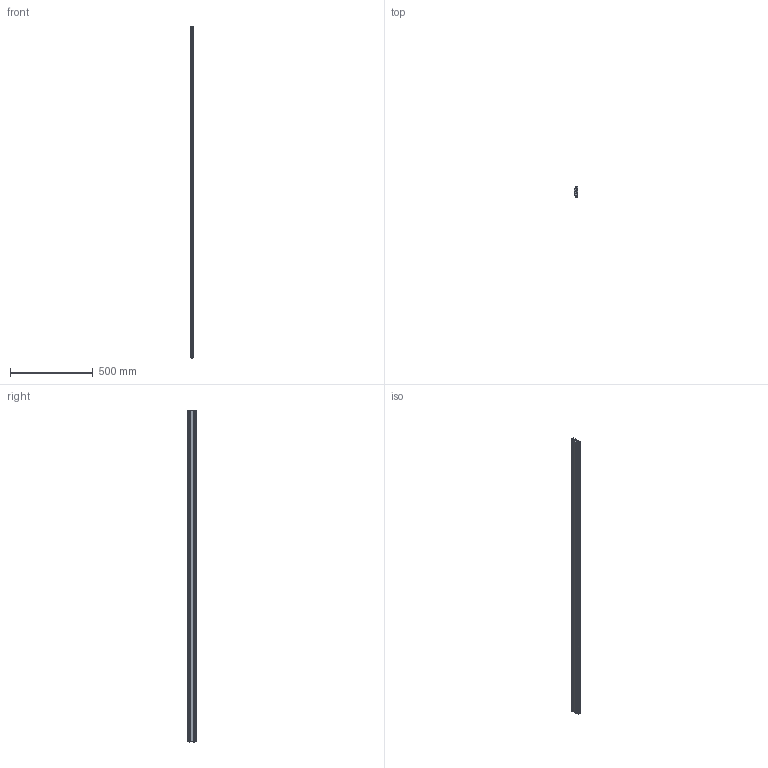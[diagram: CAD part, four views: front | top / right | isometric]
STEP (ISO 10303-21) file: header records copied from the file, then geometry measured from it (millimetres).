
FILE_DESCRIPTION (( 'STEP AP214' ), '1' );
FILE_NAME ('04560.STEP', '2014-03-31T08:33:15', ( '' ), ( '' ), 'SwSTEP 2.0', 'SolidWorks 2014', '' );
FILE_SCHEMA (( 'AUTOMOTIVE_DESIGN' ));
Length unit declared in the file: millimetre
Products named in the file (1): 04560
Bounding box: 23.7 x 60 x 2000 mm (x, y, z)
Volume: 1734410.2 mm3; surface area: 512476.1 mm2
Topology: 1 solids, 1 shells, 82 faces, 240 edges, 160 vertices
Faces by surface type: plane 44, cylinder 38
Entity records: 2796 total; most frequent: CARTESIAN_POINT 483, DIRECTION 482, ORIENTED_EDGE 480, EDGE_CURVE 240, VECTOR 164, LINE 164, VERTEX_POINT 160, AXIS2_PLACEMENT_3D 159
